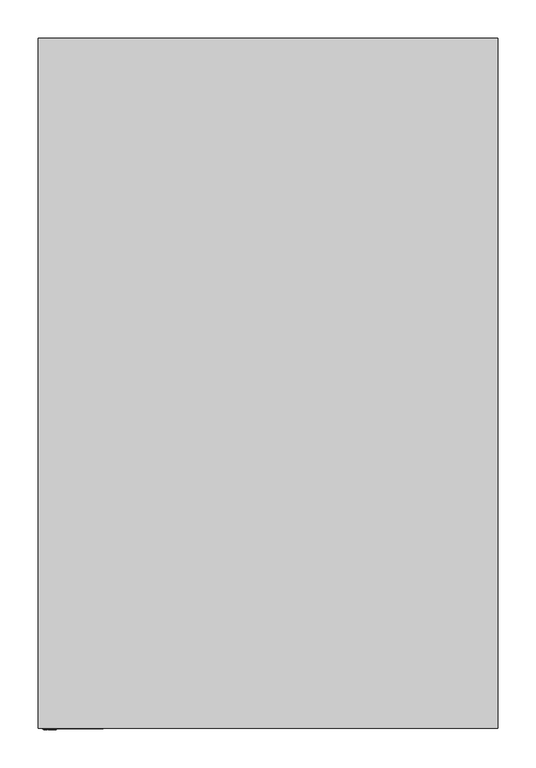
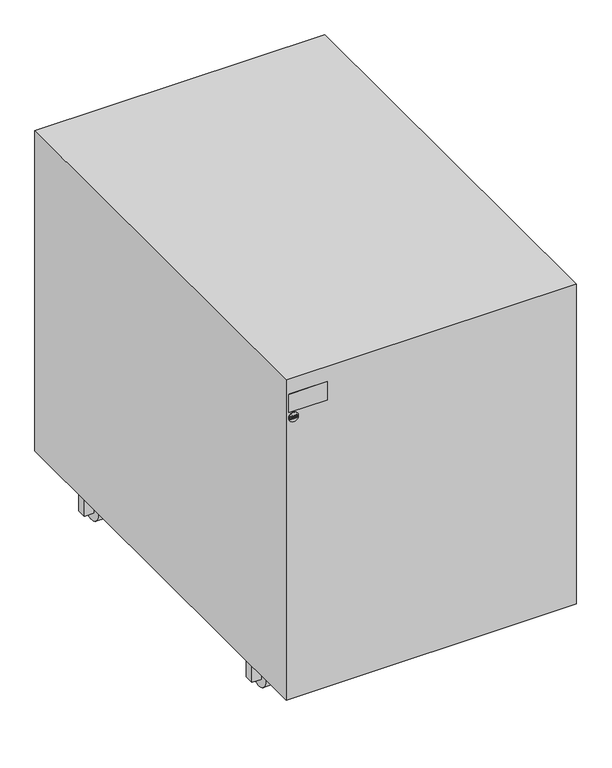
"""IFC4 building model written with IfcOpenShell, lengths in millimetres: proxy geometry, НВО_КНС_ИБПTrioTM_DKC : TRIOTM10A120."""

from ifc_helpers import new_model, si_unit, point, frame, frame_2d, origin, place, context, project, spatial, polyline, circle_curve, trimmed, segment, composite_curve, outline, extrude, source, transform, mapped, element, save


def electrical_equipment_a814c98c(model_context):
    return source(origin(), model_context, "Body", "SweptSolid", [
        extrude(outline(polyline([(50.3347717, -234.6652283), (35.0, -250.0), (20.0, -250.0), (20.0, -230.0), (70.0, -230.0), (70.0, -234.6652283), (50.3347717, -234.6652283)])), frame((0.0, 740.0, 0.0), z_axis=(0.0, 1.0, 0.0), x_axis=(0.0, 0.0, 1.0)), (0.0, 0.0, 1.0), 20.0),
        extrude(outline(polyline([(50.3347717, -285.3347717), (70.0, -285.3347717), (70.0, -290.0), (20.0, -290.0), (20.0, -270.0), (35.0, -270.0), (50.3347717, -285.3347717)])), frame((0.0, 740.0, 0.0), z_axis=(0.0, 1.0, 0.0), x_axis=(0.0, 0.0, 1.0)), (0.0, 0.0, 1.0), 20.0),
        extrude(outline(composite_curve([segment(trimmed(circle_curve(frame_2d((750.0, 25.0)), 25.0), [point((775.0, 25.0))], [point((725.0, 25.0))], False, "CARTESIAN"), True, "CONTINUOUS"), segment(trimmed(circle_curve(frame_2d((750.0, 25.0)), 25.0), [point((725.0, 25.0))], [point((775.0, 25.0))], False, "CARTESIAN"), True, "CONTINUOUS")], self_intersect=False)), frame((-270.0, 0.0, 0.0), z_axis=(1.0, 0.0, 0.0), x_axis=(0.0, 1.0, 0.0)), (0.0, 0.0, 1.0), 20.0),
        extrude(outline(polyline([(50.3347717, -234.6652283), (35.0, -250.0), (20.0, -250.0), (20.0, -230.0), (70.0, -230.0), (70.0, -234.6652283), (50.3347717, -234.6652283)])), frame((0.0, 140.0, 0.0), z_axis=(0.0, 1.0, 0.0), x_axis=(0.0, 0.0, 1.0)), (0.0, 0.0, 1.0), 20.0),
        extrude(outline(polyline([(50.3347717, -285.3347717), (70.0, -285.3347717), (70.0, -290.0), (20.0, -290.0), (20.0, -270.0), (35.0, -270.0), (50.3347717, -285.3347717)])), frame((0.0, 140.0, 0.0), z_axis=(0.0, 1.0, 0.0), x_axis=(0.0, 0.0, 1.0)), (0.0, 0.0, 1.0), 20.0),
        extrude(outline(composite_curve([segment(trimmed(circle_curve(frame_2d((150.0, 25.0)), 25.0), [point((175.0, 25.0))], [point((125.0, 25.0))], False, "CARTESIAN"), True, "CONTINUOUS"), segment(trimmed(circle_curve(frame_2d((150.0, 25.0)), 25.0), [point((125.0, 25.0))], [point((175.0, 25.0))], False, "CARTESIAN"), True, "CONTINUOUS")], self_intersect=False)), frame((-270.0, 0.0, 0.0), z_axis=(1.0, 0.0, 0.0), x_axis=(0.0, 1.0, 0.0)), (0.0, 0.0, 1.0), 20.0),
        extrude(outline(polyline([(50.3347717, 285.3347717), (35.0, 270.0), (20.0, 270.0), (20.0, 290.0), (70.0, 290.0), (70.0, 285.3347717), (50.3347717, 285.3347717)])), frame((0.0, 740.0, 0.0), z_axis=(0.0, 1.0, 0.0), x_axis=(0.0, 0.0, 1.0)), (0.0, 0.0, 1.0), 20.0),
        extrude(outline(polyline([(50.3347717, 234.6652283), (70.0, 234.6652283), (70.0, 230.0), (20.0, 230.0), (20.0, 250.0), (35.0, 250.0), (50.3347717, 234.6652283)])), frame((0.0, 740.0, 0.0), z_axis=(0.0, 1.0, 0.0), x_axis=(0.0, 0.0, 1.0)), (0.0, 0.0, 1.0), 20.0),
        extrude(outline(composite_curve([segment(trimmed(circle_curve(frame_2d((750.0, 25.0)), 25.0), [point((775.0, 25.0))], [point((725.0, 25.0))], False, "CARTESIAN"), True, "CONTINUOUS"), segment(trimmed(circle_curve(frame_2d((750.0, 25.0)), 25.0), [point((725.0, 25.0))], [point((775.0, 25.0))], False, "CARTESIAN"), True, "CONTINUOUS")], self_intersect=False)), frame((250.0, 0.0, 0.0), z_axis=(1.0, 0.0, 0.0), x_axis=(0.0, 1.0, 0.0)), (0.0, 0.0, 1.0), 20.0),
        extrude(outline(polyline([(50.3347717, 285.3347717), (35.0, 270.0), (20.0, 270.0), (20.0, 290.0), (70.0, 290.0), (70.0, 285.3347717), (50.3347717, 285.3347717)])), frame((0.0, 140.0, 0.0), z_axis=(0.0, 1.0, 0.0), x_axis=(0.0, 0.0, 1.0)), (0.0, 0.0, 1.0), 20.0),
        extrude(outline(polyline([(50.3347717, 234.6652283), (70.0, 234.6652283), (70.0, 230.0), (20.0, 230.0), (20.0, 250.0), (35.0, 250.0), (50.3347717, 234.6652283)])), frame((0.0, 140.0, 0.0), z_axis=(0.0, 1.0, 0.0), x_axis=(0.0, 0.0, 1.0)), (0.0, 0.0, 1.0), 20.0),
        extrude(outline(composite_curve([segment(trimmed(circle_curve(frame_2d((150.0, 25.0)), 25.0), [point((175.0, 25.0))], [point((125.0, 25.0))], False, "CARTESIAN"), True, "CONTINUOUS"), segment(trimmed(circle_curve(frame_2d((150.0, 25.0)), 25.0), [point((125.0, 25.0))], [point((175.0, 25.0))], False, "CARTESIAN"), True, "CONTINUOUS")], self_intersect=False)), frame((250.0, 0.0, 0.0), z_axis=(1.0, 0.0, 0.0), x_axis=(0.0, 1.0, 0.0)), (0.0, 0.0, 1.0), 20.0),
        extrude(outline(polyline([(682.0, -293.1463789), (682.0, -290.967046), (682.103007, -289.9980448), (682.9520786, -288.7273804), (683.829845, -288.3153525), (685.0460629, -288.154956), (686.4793312, -288.391872), (687.5094008, -289.1055631), (687.9405585, -289.9914229), (688.0273786, -291.0671099), (688.0273786, -293.1463789), (682.0, -293.1463789)]), holes=[polyline([(682.7534223, -292.3929566), (687.2739563, -292.3929566), (687.2739563, -291.0803536), (687.153291, -290.0120243), (686.4852173, -289.2299072), (685.0578351, -288.9083783), (683.9181367, -289.0724537), (682.8623154, -290.0900153), (682.7534223, -291.0597522), (682.7534223, -292.3929566)])]), frame((0.0, -2.0, 0.0), z_axis=(0.0, 1.0, 0.0), x_axis=(0.0, 0.0, 1.0)), (0.0, 0.0, 1.0), 6.0),
        extrude(outline(polyline([(682.0, -286.7422891), (684.0719114, -286.365578), (685.0401768, -285.3502237), (682.0, -283.0487539), (682.0, -282.1275774), (685.5493255, -284.816059), (688.0273786, -282.2217552), (688.0273786, -283.2753692), (685.076965, -286.365578), (688.0273786, -287.1190003), (682.0, -286.7422891)])), frame((0.0, -2.0, 0.0), z_axis=(0.0, 1.0, 0.0), x_axis=(0.0, 0.0, 1.0)), (0.0, 0.0, 1.0), 6.0),
        extrude(outline(polyline([(684.1425447, -277.3245101), (683.0330126, -277.963889), (682.6592445, -279.1168311), (682.9336845, -280.1564657), (683.7628905, -280.8642706), (685.0607782, -281.0916217), (686.180611, -280.8995873), (687.0458694, -280.2337209), (687.3681341, -279.055027), (687.0775073, -278.0367296), (686.3307068, -276.6652655), (687.652139, -277.5165445), (688.1215564, -279.0255964), (687.7588248, -280.4735799), (686.6971173, -281.4881985), (685.0593067, -281.845044), (683.4479835, -281.5294013), (682.3016632, -280.6096963), (681.9058222, -279.0417832), (682.4289504, -277.4643052), (684.1425447, -277.3245101)])), frame((0.0, -2.0, 0.0), z_axis=(0.0, 1.0, 0.0), x_axis=(0.0, 0.0, 1.0)), (0.0, 0.0, 1.0), 6.0),
        extrude(outline(composite_curve([segment(trimmed(circle_curve(frame_2d((685.0, -285.0)), 10.0), [point((685.0, -295.0))], [point((685.0, -275.0))], False, "CARTESIAN"), True, "CONTINUOUS"), segment(trimmed(circle_curve(frame_2d((685.0, -285.0)), 10.0), [point((685.0, -275.0))], [point((685.0, -295.0))], False, "CARTESIAN"), True, "CONTINUOUS")], self_intersect=False)), frame((0.0, -1.0, 0.0), z_axis=(0.0, 1.0, 0.0), x_axis=(0.0, 0.0, 1.0)), (0.0, 0.0, 1.0), 10.0),
        extrude(outline(polyline([(300.0, 0.0), (-300.0, 0.0), (-300.0, 900.0), (300.0, 900.0), (300.0, 0.0)])), frame((0.0, 0.0, 70.0), z_axis=(0.0, 0.0, 1.0), x_axis=(1.0, 0.0, 0.0)), (0.0, 0.0, 1.0), 700.0),
        extrude(outline(polyline([(-215.0, -1.0), (-295.0, -1.0), (-295.0, 0.0), (-215.0, 0.0), (-215.0, -1.0)])), frame((0.0, 0.0, 698.0), z_axis=(0.0, 0.0, 1.0), x_axis=(1.0, 0.0, 0.0)), (0.0, 0.0, 1.0), 40.0),
    ])


if __name__ == "__main__":
    model = new_model("IFC4")
    model_context = context("Model", 3, world=origin())
    ifc_project = project(units=[si_unit("LENGTHUNIT", "METRE", prefix="MILLI")], contexts=[model_context])
    site = spatial("IfcSite", under=ifc_project)
    building = spatial("IfcBuilding", under=site)
    placement = place(None, origin())
    electrical_equipment_shape = electrical_equipment_a814c98c(model_context)
    element("IfcBuildingElementProxy", 1, Name="НВО_КНС_ИБПTrioTM_DKC : TRIOTM10A120", ObjectType="НВО_КНС_ИБПTrioTM_DKC : TRIOTM10A120", at=placement, inside=building, context=model_context, shape_type="MappedRepresentation", body=[
        mapped(electrical_equipment_shape, transform((0.0, 0.0, 0.0), x_axis=(1.0, 0.0, 0.0), y_axis=(0.0, 1.0, 0.0), z_axis=(0.0, 0.0, 1.0))),
    ])
    save(model, "model.ifc")
